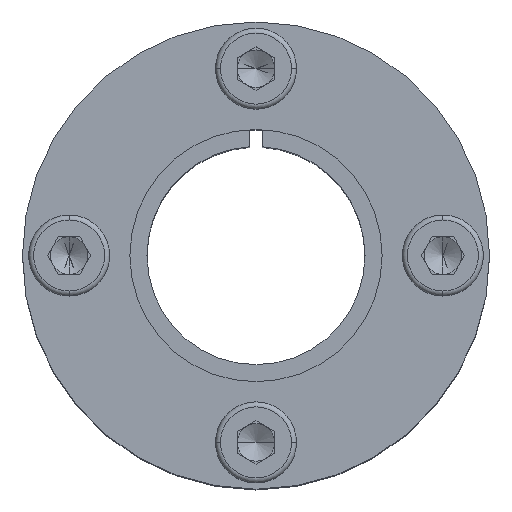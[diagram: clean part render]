
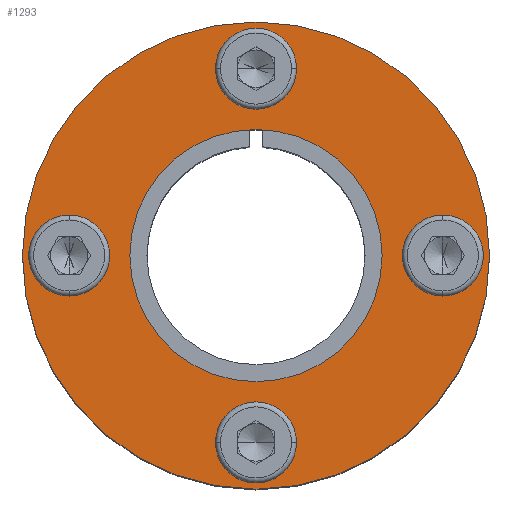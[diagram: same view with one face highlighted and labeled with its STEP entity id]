
A CAD part, top view. The second image highlights one B-rep face of the part: STEP entity #1293.
In plain terms, the highlighted planar face has unit normal (0, 0, 1).
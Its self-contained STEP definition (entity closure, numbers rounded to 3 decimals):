
#25 = ORIENTED_EDGE ( 'NONE', *, *, #6546, .T. ) ;
#105 = EDGE_LOOP ( 'NONE', ( #2135, #3700 ) ) ;
#191 = CARTESIAN_POINT ( 'NONE',  ( 0., 0., 73.427 ) ) ;
#244 = AXIS2_PLACEMENT_3D ( 'NONE', #5477, #2405, #5988 ) ;
#270 = AXIS2_PLACEMENT_3D ( 'NONE', #191, #3788, #704 ) ;
#279 = DIRECTION ( 'NONE',  ( 0., 0., -1. ) ) ;
#286 = ORIENTED_EDGE ( 'NONE', *, *, #5574, .T. ) ;
#378 = CARTESIAN_POINT ( 'NONE',  ( -30., 0., 73.427 ) ) ;
#392 = DIRECTION ( 'NONE',  ( 1., 0., 0. ) ) ;
#415 = CARTESIAN_POINT ( 'NONE',  ( 37.5, 0., 73.427 ) ) ;
#432 = CIRCLE ( 'NONE', #3261, 20.248 ) ;
#454 = EDGE_CURVE ( 'NONE', #542, #2805, #2956, .T. ) ;
#468 = CARTESIAN_POINT ( 'NONE',  ( -37.5, 0., 73.427 ) ) ;
#521 = FACE_BOUND ( 'NONE', #1558, .T. ) ;
#542 = VERTEX_POINT ( 'NONE', #909 ) ;
#649 = VERTEX_POINT ( 'NONE', #2525 ) ;
#704 = DIRECTION ( 'NONE',  ( 1., 0., 0. ) ) ;
#716 = EDGE_CURVE ( 'NONE', #2805, #542, #3234, .T. ) ;
#891 = DIRECTION ( 'NONE',  ( 1., 0., 0. ) ) ;
#899 = AXIS2_PLACEMENT_3D ( 'NONE', #6023, #2953, #6528 ) ;
#909 = CARTESIAN_POINT ( 'NONE',  ( 25.5, 0., 73.427 ) ) ;
#927 = CARTESIAN_POINT ( 'NONE',  ( -30., 0., 73.427 ) ) ;
#961 = CARTESIAN_POINT ( 'NONE',  ( -34.5, 0., 73.427 ) ) ;
#1099 = EDGE_CURVE ( 'NONE', #6544, #1699, #6021, .T. ) ;
#1101 = ORIENTED_EDGE ( 'NONE', *, *, #4073, .T. ) ;
#1161 = CIRCLE ( 'NONE', #5664, 4.5 ) ;
#1229 = CARTESIAN_POINT ( 'NONE',  ( 0., -30., 73.427 ) ) ;
#1284 = ORIENTED_EDGE ( 'NONE', *, *, #2000, .T. ) ;
#1293 = ADVANCED_FACE ( 'NONE', ( #3239, #5961, #1883, #521, #5802, #4441 ), #3616, .F. ) ;
#1322 = EDGE_LOOP ( 'NONE', ( #2939, #286 ) ) ;
#1339 = CIRCLE ( 'NONE', #4218, 4.5 ) ;
#1358 = AXIS2_PLACEMENT_3D ( 'NONE', #378, #3967, #891 ) ;
#1468 = DIRECTION ( 'NONE',  ( 1., 0., 0. ) ) ;
#1508 = EDGE_CURVE ( 'NONE', #4662, #4118, #432, .T. ) ;
#1545 = EDGE_CURVE ( 'NONE', #3662, #2332, #1161, .T. ) ;
#1558 = EDGE_LOOP ( 'NONE', ( #25, #1101 ) ) ;
#1580 = DIRECTION ( 'NONE',  ( 0., 0., -1. ) ) ;
#1699 = VERTEX_POINT ( 'NONE', #468 ) ;
#1733 = DIRECTION ( 'NONE',  ( 1., 0., 0. ) ) ;
#1739 = CIRCLE ( 'NONE', #2552, 4.5 ) ;
#1780 = CIRCLE ( 'NONE', #2745, 4.5 ) ;
#1836 = CIRCLE ( 'NONE', #270, 37.5 ) ;
#1883 = FACE_BOUND ( 'NONE', #105, .T. ) ;
#1897 = CARTESIAN_POINT ( 'NONE',  ( -25.5, 0., 73.427 ) ) ;
#1953 = CARTESIAN_POINT ( 'NONE',  ( 0., 30., 73.427 ) ) ;
#1995 = VERTEX_POINT ( 'NONE', #1897 ) ;
#2000 = EDGE_CURVE ( 'NONE', #2332, #3662, #1780, .T. ) ;
#2010 = EDGE_CURVE ( 'NONE', #1995, #4906, #6571, .T. ) ;
#2106 = DIRECTION ( 'NONE',  ( 0., 0., -1. ) ) ;
#2135 = ORIENTED_EDGE ( 'NONE', *, *, #716, .T. ) ;
#2332 = VERTEX_POINT ( 'NONE', #4262 ) ;
#2405 = DIRECTION ( 'NONE',  ( 0., 0., -1. ) ) ;
#2412 = CARTESIAN_POINT ( 'NONE',  ( 0., 0., 73.427 ) ) ;
#2426 = EDGE_LOOP ( 'NONE', ( #5783, #3698 ) ) ;
#2455 = DIRECTION ( 'NONE',  ( 1., 0., 0. ) ) ;
#2474 = DIRECTION ( 'NONE',  ( 0., 0., -1. ) ) ;
#2525 = CARTESIAN_POINT ( 'NONE',  ( -4.5, -30., 73.427 ) ) ;
#2552 = AXIS2_PLACEMENT_3D ( 'NONE', #1229, #4793, #1733 ) ;
#2696 = CARTESIAN_POINT ( 'NONE',  ( 4.5, -30., 73.427 ) ) ;
#2745 = AXIS2_PLACEMENT_3D ( 'NONE', #6517, #3458, #392 ) ;
#2805 = VERTEX_POINT ( 'NONE', #2906 ) ;
#2906 = CARTESIAN_POINT ( 'NONE',  ( 34.5, 0., 73.427 ) ) ;
#2920 = DIRECTION ( 'NONE',  ( 1., 0., 0. ) ) ;
#2939 = ORIENTED_EDGE ( 'NONE', *, *, #2010, .T. ) ;
#2953 = DIRECTION ( 'NONE',  ( 0., 0., -1. ) ) ;
#2956 = CIRCLE ( 'NONE', #244, 4.5 ) ;
#3227 = ORIENTED_EDGE ( 'NONE', *, *, #1545, .T. ) ;
#3234 = CIRCLE ( 'NONE', #5183, 4.5 ) ;
#3239 = FACE_BOUND ( 'NONE', #1322, .T. ) ;
#3261 = AXIS2_PLACEMENT_3D ( 'NONE', #2412, #5996, #2920 ) ;
#3351 = CARTESIAN_POINT ( 'NONE',  ( 0., 0., 73.427 ) ) ;
#3458 = DIRECTION ( 'NONE',  ( 0., 0., -1. ) ) ;
#3566 = CIRCLE ( 'NONE', #1358, 4.5 ) ;
#3616 = PLANE ( 'NONE',  #4555 ) ;
#3662 = VERTEX_POINT ( 'NONE', #6224 ) ;
#3698 = ORIENTED_EDGE ( 'NONE', *, *, #1508, .T. ) ;
#3700 = ORIENTED_EDGE ( 'NONE', *, *, #454, .T. ) ;
#3764 = CARTESIAN_POINT ( 'NONE',  ( -20.248, 0., 73.427 ) ) ;
#3788 = DIRECTION ( 'NONE',  ( 0., 0., -1. ) ) ;
#3879 = DIRECTION ( 'NONE',  ( 1., 0., 0. ) ) ;
#3948 = ORIENTED_EDGE ( 'NONE', *, *, #1099, .F. ) ;
#3967 = DIRECTION ( 'NONE',  ( 0., 0., -1. ) ) ;
#4073 = EDGE_CURVE ( 'NONE', #649, #5037, #1739, .T. ) ;
#4118 = VERTEX_POINT ( 'NONE', #5324 ) ;
#4218 = AXIS2_PLACEMENT_3D ( 'NONE', #5546, #2474, #6051 ) ;
#4262 = CARTESIAN_POINT ( 'NONE',  ( -4.5, 30., 73.427 ) ) ;
#4303 = CIRCLE ( 'NONE', #4726, 20.248 ) ;
#4441 = FACE_OUTER_BOUND ( 'NONE', #5560, .T. ) ;
#4523 = DIRECTION ( 'NONE',  ( 0., 0., -1. ) ) ;
#4555 = AXIS2_PLACEMENT_3D ( 'NONE', #5172, #2106, #5688 ) ;
#4648 = CARTESIAN_POINT ( 'NONE',  ( 30., 0., 73.427 ) ) ;
#4662 = VERTEX_POINT ( 'NONE', #3764 ) ;
#4726 = AXIS2_PLACEMENT_3D ( 'NONE', #3351, #279, #3879 ) ;
#4793 = DIRECTION ( 'NONE',  ( 0., 0., -1. ) ) ;
#4815 = AXIS2_PLACEMENT_3D ( 'NONE', #927, #4523, #1468 ) ;
#4906 = VERTEX_POINT ( 'NONE', #961 ) ;
#5037 = VERTEX_POINT ( 'NONE', #2696 ) ;
#5159 = DIRECTION ( 'NONE',  ( 1., 0., 0. ) ) ;
#5172 = CARTESIAN_POINT ( 'NONE',  ( 0., 0., 73.427 ) ) ;
#5183 = AXIS2_PLACEMENT_3D ( 'NONE', #4648, #1580, #5159 ) ;
#5184 = ORIENTED_EDGE ( 'NONE', *, *, #5983, .F. ) ;
#5324 = CARTESIAN_POINT ( 'NONE',  ( 20.248, 0., 73.427 ) ) ;
#5477 = CARTESIAN_POINT ( 'NONE',  ( 30., 0., 73.427 ) ) ;
#5530 = DIRECTION ( 'NONE',  ( 0., 0., -1. ) ) ;
#5546 = CARTESIAN_POINT ( 'NONE',  ( 0., -30., 73.427 ) ) ;
#5560 = EDGE_LOOP ( 'NONE', ( #5184, #3948 ) ) ;
#5574 = EDGE_CURVE ( 'NONE', #4906, #1995, #3566, .T. ) ;
#5634 = EDGE_LOOP ( 'NONE', ( #3227, #1284 ) ) ;
#5664 = AXIS2_PLACEMENT_3D ( 'NONE', #1953, #5530, #2455 ) ;
#5688 = DIRECTION ( 'NONE',  ( 1., 0., 0. ) ) ;
#5783 = ORIENTED_EDGE ( 'NONE', *, *, #6081, .T. ) ;
#5802 = FACE_BOUND ( 'NONE', #2426, .T. ) ;
#5961 = FACE_BOUND ( 'NONE', #5634, .T. ) ;
#5983 = EDGE_CURVE ( 'NONE', #1699, #6544, #1836, .T. ) ;
#5988 = DIRECTION ( 'NONE',  ( 1., 0., 0. ) ) ;
#5996 = DIRECTION ( 'NONE',  ( 0., 0., -1. ) ) ;
#6021 = CIRCLE ( 'NONE', #899, 37.5 ) ;
#6023 = CARTESIAN_POINT ( 'NONE',  ( 0., 0., 73.427 ) ) ;
#6051 = DIRECTION ( 'NONE',  ( 1., 0., 0. ) ) ;
#6081 = EDGE_CURVE ( 'NONE', #4118, #4662, #4303, .T. ) ;
#6224 = CARTESIAN_POINT ( 'NONE',  ( 4.5, 30., 73.427 ) ) ;
#6517 = CARTESIAN_POINT ( 'NONE',  ( 0., 30., 73.427 ) ) ;
#6528 = DIRECTION ( 'NONE',  ( 1., 0., 0. ) ) ;
#6544 = VERTEX_POINT ( 'NONE', #415 ) ;
#6546 = EDGE_CURVE ( 'NONE', #5037, #649, #1339, .T. ) ;
#6571 = CIRCLE ( 'NONE', #4815, 4.5 ) ;
